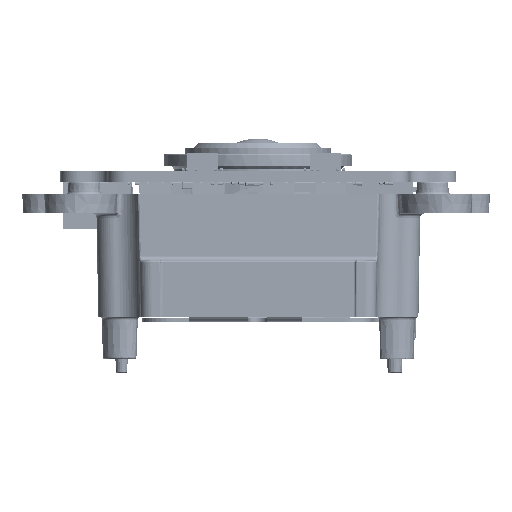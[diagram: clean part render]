
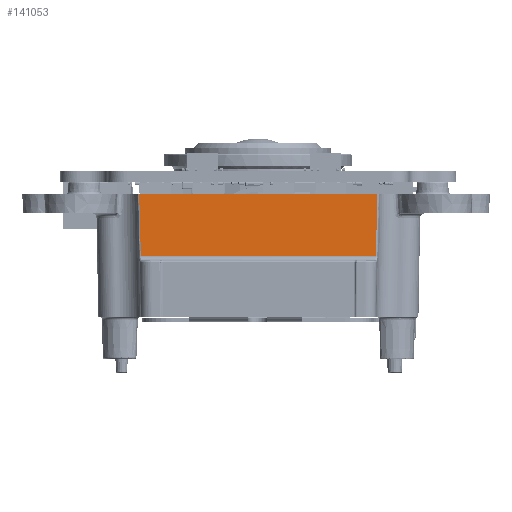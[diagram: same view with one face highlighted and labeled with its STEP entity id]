
A CAD part, left-side view. The second image highlights one B-rep face of the part: STEP entity #141053.
In plain terms, the highlighted planar face has unit normal (-1, 0, 0.018).
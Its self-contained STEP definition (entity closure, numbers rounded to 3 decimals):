
#1259 = CARTESIAN_POINT ( 'NONE',  ( -21.728, 50.394, -11.009 ) ) ;
#28621 = EDGE_CURVE ( 'NONE', #548098, #287532, #160602, .T. ) ;
#43720 = CARTESIAN_POINT ( 'NONE',  ( -21.728, 25.446, -11.009 ) ) ;
#43773 = CARTESIAN_POINT ( 'NONE',  ( -21.728, 42.078, -11.009 ) ) ;
#59121 = CARTESIAN_POINT ( 'NONE',  ( -21.614, 50.568, -4.5 ) ) ;
#88592 = FACE_OUTER_BOUND ( 'NONE', #114173, .T. ) ;
#90740 = CARTESIAN_POINT ( 'NONE',  ( -21.614, 25.272, -4.5 ) ) ;
#114173 = EDGE_LOOP ( 'NONE', ( #437403, #374174, #297527, #594000 ) ) ;
#122562 = B_SPLINE_CURVE_WITH_KNOTS ( 'NONE', 3,
 ( #1259, #43773, #370734, #282865 ),
 .UNSPECIFIED., .F., .F.,
 ( 4, 4 ),
 ( 0., 1. ),
 .UNSPECIFIED. ) ;
#141053 = ADVANCED_FACE ( 'NONE', ( #88592 ), #503397, .T. ) ;
#144120 = CARTESIAN_POINT ( 'NONE',  ( -21.652, 50.507, -6.657 ) ) ;
#158541 = CARTESIAN_POINT ( 'NONE',  ( -21.614, 25.272, -4.5 ) ) ;
#160602 = B_SPLINE_CURVE_WITH_KNOTS ( 'NONE', 3,
 ( #545172, #314856, #230047, #90740 ),
 .UNSPECIFIED., .F., .F.,
 ( 4, 4 ),
 ( 0., 1. ),
 .UNSPECIFIED. ) ;
#190095 = CARTESIAN_POINT ( 'NONE',  ( -21.728, 50.394, -11.009 ) ) ;
#192439 = CARTESIAN_POINT ( 'NONE',  ( -21.689, 50.449, -8.827 ) ) ;
#194515 = CARTESIAN_POINT ( 'NONE',  ( -21.614, 50.568, -4.5 ) ) ;
#230047 = CARTESIAN_POINT ( 'NONE',  ( -21.614, 33.704, -4.5 ) ) ;
#231472 = CARTESIAN_POINT ( 'NONE',  ( -21.69, 25.391, -8.839 ) ) ;
#257683 = B_SPLINE_CURVE_WITH_KNOTS ( 'NONE', 3,
 ( #59121, #144120, #192439, #462053 ),
 .UNSPECIFIED., .F., .F.,
 ( 4, 4 ),
 ( 0., 1. ),
 .UNSPECIFIED. ) ;
#262633 = VERTEX_POINT ( 'NONE', #286259 ) ;
#270249 = DIRECTION ( 'NONE',  ( -1., 0., 0.017 ) ) ;
#271488 = CARTESIAN_POINT ( 'NONE',  ( -21.614, 25.272, -4.5 ) ) ;
#282865 = CARTESIAN_POINT ( 'NONE',  ( -21.728, 25.446, -11.009 ) ) ;
#286259 = CARTESIAN_POINT ( 'NONE',  ( -21.728, 25.446, -11.009 ) ) ;
#287532 = VERTEX_POINT ( 'NONE', #271488 ) ;
#295307 = EDGE_CURVE ( 'NONE', #548098, #540139, #257683, .T. ) ;
#297527 = ORIENTED_EDGE ( 'NONE', *, *, #28621, .F. ) ;
#314856 = CARTESIAN_POINT ( 'NONE',  ( -21.614, 42.136, -4.5 ) ) ;
#336828 = B_SPLINE_CURVE_WITH_KNOTS ( 'NONE', 3,
 ( #43720, #231472, #416186, #158541 ),
 .UNSPECIFIED., .F., .F.,
 ( 4, 4 ),
 ( 0., 1. ),
 .UNSPECIFIED. ) ;
#339720 = EDGE_CURVE ( 'NONE', #262633, #287532, #336828, .T. ) ;
#370734 = CARTESIAN_POINT ( 'NONE',  ( -21.728, 33.762, -11.009 ) ) ;
#374174 = ORIENTED_EDGE ( 'NONE', *, *, #339720, .T. ) ;
#416186 = CARTESIAN_POINT ( 'NONE',  ( -21.652, 25.334, -6.669 ) ) ;
#418553 = DIRECTION ( 'NONE',  ( 0., 1., 0. ) ) ;
#437403 = ORIENTED_EDGE ( 'NONE', *, *, #588133, .T. ) ;
#462053 = CARTESIAN_POINT ( 'NONE',  ( -21.728, 50.394, -11.009 ) ) ;
#503397 = PLANE ( 'NONE',  #596126 ) ;
#540139 = VERTEX_POINT ( 'NONE', #190095 ) ;
#545172 = CARTESIAN_POINT ( 'NONE',  ( -21.614, 50.568, -4.5 ) ) ;
#548098 = VERTEX_POINT ( 'NONE', #194515 ) ;
#588133 = EDGE_CURVE ( 'NONE', #540139, #262633, #122562, .T. ) ;
#594000 = ORIENTED_EDGE ( 'NONE', *, *, #295307, .T. ) ;
#596126 = AXIS2_PLACEMENT_3D ( 'NONE', #597313, #270249, #418553 ) ;
#597313 = CARTESIAN_POINT ( 'NONE',  ( -21.671, 37.92, -7.754 ) ) ;
